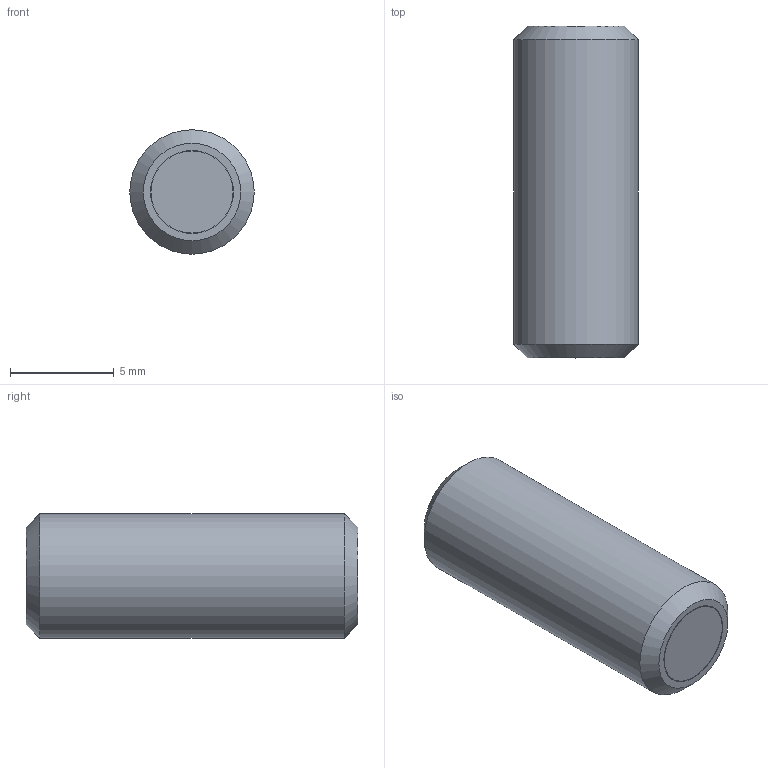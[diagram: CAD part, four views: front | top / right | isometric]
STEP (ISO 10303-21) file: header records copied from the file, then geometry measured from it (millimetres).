
FILE_DESCRIPTION(/* description */ ('STEP AP214'),/* implementation_level */ '2;1');
FILE_NAME(/* name */ 'Grub screw with retaining magnet GN 913.6-M6-16-ND',/* time_stamp */ '2023-10-03T11:25:47+02:00',/* author */ ('License CC BY-ND 4.0'),/* organization */ ('CADENAS'),/* preprocessor_version */ 'ST-DEVELOPER v19.3',/* originating_system */ 'PARTsolutions',/* authorisation */ ' ');
FILE_SCHEMA (('AUTOMOTIVE_DESIGN {1 0 10303 214 3 1 1}'));
Length unit declared in the file: millimetre
Products named in the file (1): Grub screw with retaining magnet GN 913.6-M6-16-ND
Bounding box: 6 x 16 x 6 mm (x, y, z)
Volume: 420.6 mm3; surface area: 374.1 mm2
Topology: 1 solids, 1 shells, 22 faces, 45 edges, 27 vertices
Faces by surface type: plane 16, cone 3, cylinder 3
Full cylindrical faces by diameter (mm): 3.96 x1, 4 x1, 6 x1
Entity records: 566 total; most frequent: DIRECTION 98, CARTESIAN_POINT 88, ORIENTED_EDGE 76, EDGE_CURVE 38, AXIS2_PLACEMENT_3D 37, FACE_BOUND 31, EDGE_LOOP 30, VERTEX_POINT 27
